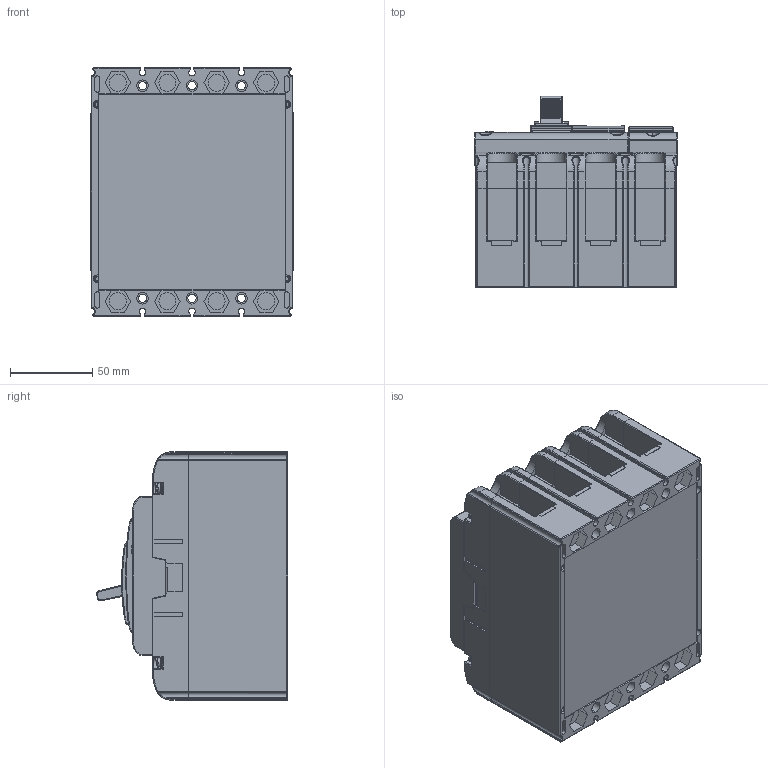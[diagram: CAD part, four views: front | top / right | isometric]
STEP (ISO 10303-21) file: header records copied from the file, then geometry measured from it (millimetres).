
FILE_DESCRIPTION((''),'2;1');
FILE_NAME('2TZD_259_1236_ASM_ASM','2019-01-24T',('Administrator'),(''),'PRO/ENGINEER BY PARAMETRIC TECHNOLOGY CORPORATION, 2017170','PRO/ENGINEER BY PARAMETRIC TECHNOLOGY CORPORATION, 2017170','');
FILE_SCHEMA(('CONFIG_CONTROL_DESIGN'));
Products named in the file (27): 8TZD_024_6015_1; 5TZD_024_6026_ASM_1_ASM; 8TZD_585_6031_1; 5TZD_552_6017_ASM_1_ASM; 5TZD_552_6018_ASM_1_ASM; 8TZD_742_6059_1; 8TZD_742_6061_1; 8TZD_742_6063_1; 8TZD_585_6032_1; 5TZD_558_6027_ASM_1_ASM; 5TZD_558_6028_ASM_1_ASM; 5TZD_558_6029_ASM_1_ASM; 8TZD_585_6030_1; 5TZD_558_6022_ASM_1_ASM; 5TZD_558_6049_ASM_1_ASM; 8TZD_253_6010_1; 8TZD_315_6028_1; GB_T809-M3X6-B_1; 5TZD_315_6008_ASM_1_ASM; 8TZD_253_6011_1; 8TZD_315_6039_1; 8TZD_315_6050_1; GB_T9074_4-M3X6_1; 8TZD_750_6008_1; Q_TZJ0304_1-M3X25_1; 2TZD_259_1236_ASM_1_ASM; 2TZD_259_1236_ASM_ASM
Assembly tree (56 placements, depth 7):
  2TZD_259_1236_ASM_ASM
    2TZD_259_1236_ASM_1_ASM
      5TZD_024_6026_ASM_1_ASM
        8TZD_024_6015_1
      5TZD_552_6018_ASM_1_ASM  x3
        5TZD_552_6017_ASM_1_ASM
          8TZD_585_6031_1
      8TZD_742_6059_1  x4
      8TZD_742_6061_1  x4
      8TZD_742_6063_1  x4
      5TZD_558_6049_ASM_1_ASM
        5TZD_558_6029_ASM_1_ASM  x3
          5TZD_558_6028_ASM_1_ASM
            5TZD_558_6027_ASM_1_ASM
              8TZD_585_6032_1
        5TZD_558_6022_ASM_1_ASM
          8TZD_585_6030_1  x2
      8TZD_253_6010_1
      5TZD_315_6008_ASM_1_ASM
        8TZD_315_6028_1
        GB_T809-M3X6-B_1  x6
      8TZD_253_6011_1
      8TZD_315_6039_1
      8TZD_315_6050_1
      GB_T9074_4-M3X6_1  x6
      8TZD_750_6008_1
      Q_TZJ0304_1-M3X25_1  x7
Bounding box: 123 x 115.99 x 151 mm (x, y, z)
Volume: 1229957.9 mm3; surface area: 369331.4 mm2
Topology: 46 solids, 105 shells, 6160 faces, 16762 edges, 11007 vertices
Faces by surface type: plane 4625, cylinder 1136, torus 182, bspline 89, sphere 69, cone 59
Entity records: 180058 total; most frequent: CARTESIAN_POINT 44453, ORIENTED_EDGE 28842, DIRECTION 26849, EDGE_CURVE 14433, VECTOR 11143, LINE 11143, VERTEX_POINT 9493, AXIS2_PLACEMENT_3D 7853
